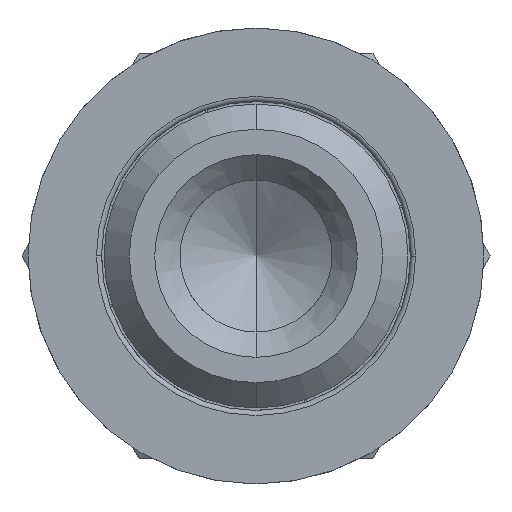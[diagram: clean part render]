
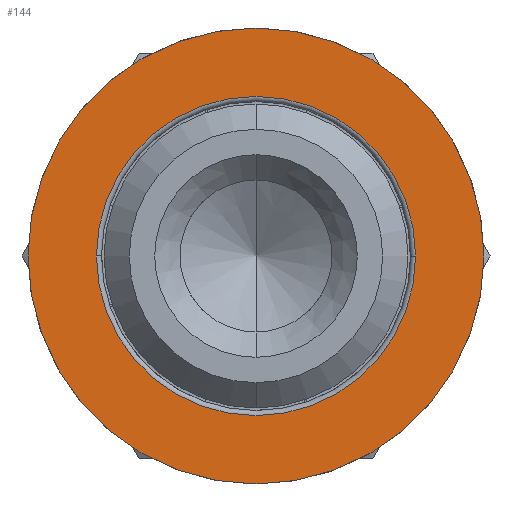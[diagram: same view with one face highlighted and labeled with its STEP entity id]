
A CAD part, front view. The second image highlights one B-rep face of the part: STEP entity #144.
In plain terms, the highlighted planar face has unit normal (0, -1, 0).
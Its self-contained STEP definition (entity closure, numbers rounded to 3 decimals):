
#17 = EDGE_CURVE ( 'NONE', #1388, #1470, #437, .T. ) ;
#86 = EDGE_CURVE ( 'NONE', #1419, #1440, #529, .T. ) ;
#144 = ADVANCED_FACE ( 'NONE', ( #1001, #1005 ), #3214, .T. ) ;
#277 = CIRCLE ( 'NONE', #1288, 3.15 ) ;
#286 = CIRCLE ( 'NONE', #1289, 4.5 ) ;
#437 = CIRCLE ( 'NONE', #1957, 4.5 ) ;
#529 = CIRCLE ( 'NONE', #1992, 3.15 ) ;
#804 = CARTESIAN_POINT ( 'NONE',  ( 4.5, 5., 0. ) ) ;
#819 = CARTESIAN_POINT ( 'NONE',  ( -3.15, 5., 0. ) ) ;
#831 = CARTESIAN_POINT ( 'NONE',  ( 3.15, 5., 0. ) ) ;
#1001 = FACE_BOUND ( 'NONE', #2224, .T. ) ;
#1005 = FACE_OUTER_BOUND ( 'NONE', #2219, .T. ) ;
#1055 = CARTESIAN_POINT ( 'NONE',  ( -4.5, 5., 0. ) ) ;
#1288 = AXIS2_PLACEMENT_3D ( 'NONE', #4302, #4303, #4304 ) ;
#1289 = AXIS2_PLACEMENT_3D ( 'NONE', #4305, #4306, #4307 ) ;
#1388 = VERTEX_POINT ( 'NONE', #804 ) ;
#1419 = VERTEX_POINT ( 'NONE', #819 ) ;
#1440 = VERTEX_POINT ( 'NONE', #831 ) ;
#1470 = VERTEX_POINT ( 'NONE', #1055 ) ;
#1932 = EDGE_CURVE ( 'NONE', #1440, #1419, #277, .T. ) ;
#1933 = EDGE_CURVE ( 'NONE', #1470, #1388, #286, .T. ) ;
#1957 = AXIS2_PLACEMENT_3D ( 'NONE', #2997, #2996, #2992 ) ;
#1992 = AXIS2_PLACEMENT_3D ( 'NONE', #2818, #2817, #2816 ) ;
#2219 = EDGE_LOOP ( 'NONE', ( #4090, #4091 ) ) ;
#2224 = EDGE_LOOP ( 'NONE', ( #4088, #4089 ) ) ;
#2816 = DIRECTION ( 'NONE',  ( 1., 0., 0. ) ) ;
#2817 = DIRECTION ( 'NONE',  ( 0., 1., 0. ) ) ;
#2818 = CARTESIAN_POINT ( 'NONE',  ( 0., 5., 0. ) ) ;
#2992 = DIRECTION ( 'NONE',  ( 1., 0., 0. ) ) ;
#2996 = DIRECTION ( 'NONE',  ( 0., -1., 0. ) ) ;
#2997 = CARTESIAN_POINT ( 'NONE',  ( 0., 5., 0. ) ) ;
#3214 = PLANE ( 'NONE',  #3787 ) ;
#3221 = CARTESIAN_POINT ( 'NONE',  ( 0., 5., 0. ) ) ;
#3222 = DIRECTION ( 'NONE',  ( 0., -1., 0. ) ) ;
#3223 = DIRECTION ( 'NONE',  ( 1., 0., 0. ) ) ;
#3787 = AXIS2_PLACEMENT_3D ( 'NONE', #3221, #3222, #3223 ) ;
#4088 = ORIENTED_EDGE ( 'NONE', *, *, #1932, .T. ) ;
#4089 = ORIENTED_EDGE ( 'NONE', *, *, #86, .T. ) ;
#4090 = ORIENTED_EDGE ( 'NONE', *, *, #1933, .T. ) ;
#4091 = ORIENTED_EDGE ( 'NONE', *, *, #17, .T. ) ;
#4302 = CARTESIAN_POINT ( 'NONE',  ( 0., 5., 0. ) ) ;
#4303 = DIRECTION ( 'NONE',  ( 0., 1., 0. ) ) ;
#4304 = DIRECTION ( 'NONE',  ( 1., 0., 0. ) ) ;
#4305 = CARTESIAN_POINT ( 'NONE',  ( 0., 5., 0. ) ) ;
#4306 = DIRECTION ( 'NONE',  ( 0., -1., 0. ) ) ;
#4307 = DIRECTION ( 'NONE',  ( 1., 0., 0. ) ) ;
